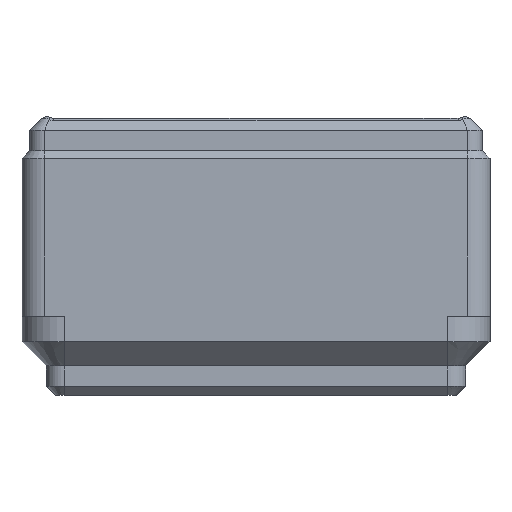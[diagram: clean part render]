
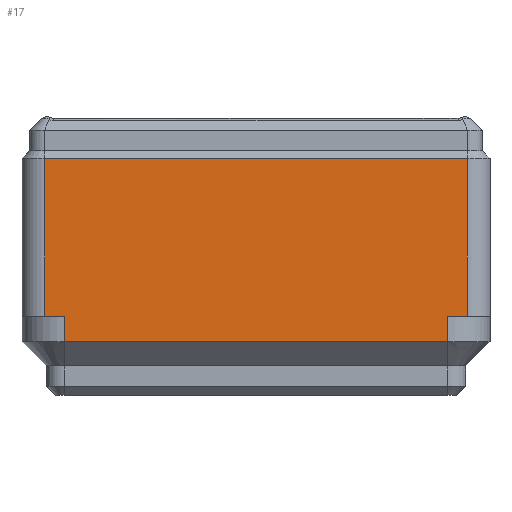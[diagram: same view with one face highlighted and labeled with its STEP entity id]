
A CAD part, left-side view. The second image highlights one B-rep face of the part: STEP entity #17.
In plain terms, the highlighted planar face has unit normal (-1, 0, 0).
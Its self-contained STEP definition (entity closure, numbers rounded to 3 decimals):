
#17 = ADVANCED_FACE('',(#18),#32,.T.);
#18 = FACE_BOUND('',#19,.T.);
#19 = EDGE_LOOP('',(#20,#55,#83,#111,#139,#167,#195,#223));
#20 = ORIENTED_EDGE('',*,*,#21,.T.);
#21 = EDGE_CURVE('',#22,#24,#26,.T.);
#22 = VERTEX_POINT('',#23);
#23 = CARTESIAN_POINT('',(0.,2.,7.));
#24 = VERTEX_POINT('',#25);
#25 = CARTESIAN_POINT('',(0.,2.,21.));
#26 = SURFACE_CURVE('',#27,(#31,#43),.PCURVE_S1.);
#27 = LINE('',#28,#29);
#28 = CARTESIAN_POINT('',(0.,2.,7.));
#29 = VECTOR('',#30,1.);
#30 = DIRECTION('',(0.,0.,1.));
#31 = PCURVE('',#32,#37);
#32 = PLANE('',#33);
#33 = AXIS2_PLACEMENT_3D('',#34,#35,#36);
#34 = CARTESIAN_POINT('',(0.,2.,7.));
#35 = DIRECTION('',(-1.,0.,0.));
#36 = DIRECTION('',(0.,1.,0.));
#37 = DEFINITIONAL_REPRESENTATION('',(#38),#42);
#38 = LINE('',#39,#40);
#39 = CARTESIAN_POINT('',(0.,0.));
#40 = VECTOR('',#41,1.);
#41 = DIRECTION('',(0.,-1.));
#42 = ( GEOMETRIC_REPRESENTATION_CONTEXT(2) 
PARAMETRIC_REPRESENTATION_CONTEXT() REPRESENTATION_CONTEXT('2D SPACE',''
  ) );
#43 = PCURVE('',#44,#49);
#44 = CYLINDRICAL_SURFACE('',#45,2.);
#45 = AXIS2_PLACEMENT_3D('',#46,#47,#48);
#46 = CARTESIAN_POINT('',(2.,2.,7.));
#47 = DIRECTION('',(-0.,-0.,-1.));
#48 = DIRECTION('',(1.,0.,0.));
#49 = DEFINITIONAL_REPRESENTATION('',(#50),#54);
#50 = LINE('',#51,#52);
#51 = CARTESIAN_POINT('',(-3.142,0.));
#52 = VECTOR('',#53,1.);
#53 = DIRECTION('',(-0.,-1.));
#54 = ( GEOMETRIC_REPRESENTATION_CONTEXT(2) 
PARAMETRIC_REPRESENTATION_CONTEXT() REPRESENTATION_CONTEXT('2D SPACE',''
  ) );
#55 = ORIENTED_EDGE('',*,*,#56,.T.);
#56 = EDGE_CURVE('',#24,#57,#59,.T.);
#57 = VERTEX_POINT('',#58);
#58 = CARTESIAN_POINT('',(0.,39.5,21.));
#59 = SURFACE_CURVE('',#60,(#64,#71),.PCURVE_S1.);
#60 = LINE('',#61,#62);
#61 = CARTESIAN_POINT('',(0.,20.75,21.));
#62 = VECTOR('',#63,1.);
#63 = DIRECTION('',(0.,1.,0.));
#64 = PCURVE('',#32,#65);
#65 = DEFINITIONAL_REPRESENTATION('',(#66),#70);
#66 = LINE('',#67,#68);
#67 = CARTESIAN_POINT('',(18.75,-14.));
#68 = VECTOR('',#69,1.);
#69 = DIRECTION('',(1.,0.));
#70 = ( GEOMETRIC_REPRESENTATION_CONTEXT(2) 
PARAMETRIC_REPRESENTATION_CONTEXT() REPRESENTATION_CONTEXT('2D SPACE',''
  ) );
#71 = PCURVE('',#72,#77);
#72 = PLANE('',#73);
#73 = AXIS2_PLACEMENT_3D('',#74,#75,#76);
#74 = CARTESIAN_POINT('',(0.7,20.75,21.7));
#75 = DIRECTION('',(-0.707,0.,0.707));
#76 = DIRECTION('',(-0.,-1.,0.));
#77 = DEFINITIONAL_REPRESENTATION('',(#78),#82);
#78 = LINE('',#79,#80);
#79 = CARTESIAN_POINT('',(0.,-0.99));
#80 = VECTOR('',#81,1.);
#81 = DIRECTION('',(-1.,0.));
#82 = ( GEOMETRIC_REPRESENTATION_CONTEXT(2) 
PARAMETRIC_REPRESENTATION_CONTEXT() REPRESENTATION_CONTEXT('2D SPACE',''
  ) );
#83 = ORIENTED_EDGE('',*,*,#84,.F.);
#84 = EDGE_CURVE('',#85,#57,#87,.T.);
#85 = VERTEX_POINT('',#86);
#86 = CARTESIAN_POINT('',(0.,39.5,7.));
#87 = SURFACE_CURVE('',#88,(#92,#99),.PCURVE_S1.);
#88 = LINE('',#89,#90);
#89 = CARTESIAN_POINT('',(0.,39.5,7.));
#90 = VECTOR('',#91,1.);
#91 = DIRECTION('',(0.,0.,1.));
#92 = PCURVE('',#32,#93);
#93 = DEFINITIONAL_REPRESENTATION('',(#94),#98);
#94 = LINE('',#95,#96);
#95 = CARTESIAN_POINT('',(37.5,0.));
#96 = VECTOR('',#97,1.);
#97 = DIRECTION('',(0.,-1.));
#98 = ( GEOMETRIC_REPRESENTATION_CONTEXT(2) 
PARAMETRIC_REPRESENTATION_CONTEXT() REPRESENTATION_CONTEXT('2D SPACE',''
  ) );
#99 = PCURVE('',#100,#105);
#100 = CYLINDRICAL_SURFACE('',#101,2.);
#101 = AXIS2_PLACEMENT_3D('',#102,#103,#104);
#102 = CARTESIAN_POINT('',(2.,39.5,7.));
#103 = DIRECTION('',(-0.,-0.,-1.));
#104 = DIRECTION('',(1.,0.,0.));
#105 = DEFINITIONAL_REPRESENTATION('',(#106),#110);
#106 = LINE('',#107,#108);
#107 = CARTESIAN_POINT('',(-3.142,0.));
#108 = VECTOR('',#109,1.);
#109 = DIRECTION('',(-0.,-1.));
#110 = ( GEOMETRIC_REPRESENTATION_CONTEXT(2) 
PARAMETRIC_REPRESENTATION_CONTEXT() REPRESENTATION_CONTEXT('2D SPACE',''
  ) );
#111 = ORIENTED_EDGE('',*,*,#112,.F.);
#112 = EDGE_CURVE('',#113,#85,#115,.T.);
#113 = VERTEX_POINT('',#114);
#114 = CARTESIAN_POINT('',(0.,37.75,7.));
#115 = SURFACE_CURVE('',#116,(#120,#127),.PCURVE_S1.);
#116 = LINE('',#117,#118);
#117 = CARTESIAN_POINT('',(0.,20.75,7.));
#118 = VECTOR('',#119,1.);
#119 = DIRECTION('',(0.,1.,0.));
#120 = PCURVE('',#32,#121);
#121 = DEFINITIONAL_REPRESENTATION('',(#122),#126);
#122 = LINE('',#123,#124);
#123 = CARTESIAN_POINT('',(18.75,0.));
#124 = VECTOR('',#125,1.);
#125 = DIRECTION('',(1.,0.));
#126 = ( GEOMETRIC_REPRESENTATION_CONTEXT(2) 
PARAMETRIC_REPRESENTATION_CONTEXT() REPRESENTATION_CONTEXT('2D SPACE',''
  ) );
#127 = PCURVE('',#128,#133);
#128 = PLANE('',#129);
#129 = AXIS2_PLACEMENT_3D('',#130,#131,#132);
#130 = CARTESIAN_POINT('',(41.75,20.75,7.));
#131 = DIRECTION('',(0.,0.,1.));
#132 = DIRECTION('',(1.,0.,-0.));
#133 = DEFINITIONAL_REPRESENTATION('',(#134),#138);
#134 = LINE('',#135,#136);
#135 = CARTESIAN_POINT('',(-41.75,0.));
#136 = VECTOR('',#137,1.);
#137 = DIRECTION('',(0.,1.));
#138 = ( GEOMETRIC_REPRESENTATION_CONTEXT(2) 
PARAMETRIC_REPRESENTATION_CONTEXT() REPRESENTATION_CONTEXT('2D SPACE',''
  ) );
#139 = ORIENTED_EDGE('',*,*,#140,.F.);
#140 = EDGE_CURVE('',#141,#113,#143,.T.);
#141 = VERTEX_POINT('',#142);
#142 = CARTESIAN_POINT('',(0.,37.75,4.75));
#143 = SURFACE_CURVE('',#144,(#148,#155),.PCURVE_S1.);
#144 = LINE('',#145,#146);
#145 = CARTESIAN_POINT('',(0.,37.75,4.75));
#146 = VECTOR('',#147,1.);
#147 = DIRECTION('',(0.,0.,1.));
#148 = PCURVE('',#32,#149);
#149 = DEFINITIONAL_REPRESENTATION('',(#150),#154);
#150 = LINE('',#151,#152);
#151 = CARTESIAN_POINT('',(35.75,2.25));
#152 = VECTOR('',#153,1.);
#153 = DIRECTION('',(0.,-1.));
#154 = ( GEOMETRIC_REPRESENTATION_CONTEXT(2) 
PARAMETRIC_REPRESENTATION_CONTEXT() REPRESENTATION_CONTEXT('2D SPACE',''
  ) );
#155 = PCURVE('',#156,#161);
#156 = CYLINDRICAL_SURFACE('',#157,3.75);
#157 = AXIS2_PLACEMENT_3D('',#158,#159,#160);
#158 = CARTESIAN_POINT('',(3.75,37.75,4.75));
#159 = DIRECTION('',(-0.,-0.,-1.));
#160 = DIRECTION('',(1.,0.,0.));
#161 = DEFINITIONAL_REPRESENTATION('',(#162),#166);
#162 = LINE('',#163,#164);
#163 = CARTESIAN_POINT('',(-3.142,0.));
#164 = VECTOR('',#165,1.);
#165 = DIRECTION('',(-0.,-1.));
#166 = ( GEOMETRIC_REPRESENTATION_CONTEXT(2) 
PARAMETRIC_REPRESENTATION_CONTEXT() REPRESENTATION_CONTEXT('2D SPACE',''
  ) );
#167 = ORIENTED_EDGE('',*,*,#168,.F.);
#168 = EDGE_CURVE('',#169,#141,#171,.T.);
#169 = VERTEX_POINT('',#170);
#170 = CARTESIAN_POINT('',(0.,3.75,4.75));
#171 = SURFACE_CURVE('',#172,(#176,#183),.PCURVE_S1.);
#172 = LINE('',#173,#174);
#173 = CARTESIAN_POINT('',(0.,20.75,4.75));
#174 = VECTOR('',#175,1.);
#175 = DIRECTION('',(0.,1.,0.));
#176 = PCURVE('',#32,#177);
#177 = DEFINITIONAL_REPRESENTATION('',(#178),#182);
#178 = LINE('',#179,#180);
#179 = CARTESIAN_POINT('',(18.75,2.25));
#180 = VECTOR('',#181,1.);
#181 = DIRECTION('',(1.,0.));
#182 = ( GEOMETRIC_REPRESENTATION_CONTEXT(2) 
PARAMETRIC_REPRESENTATION_CONTEXT() REPRESENTATION_CONTEXT('2D SPACE',''
  ) );
#183 = PCURVE('',#184,#189);
#184 = PLANE('',#185);
#185 = AXIS2_PLACEMENT_3D('',#186,#187,#188);
#186 = CARTESIAN_POINT('',(0.,20.75,4.75));
#187 = DIRECTION('',(-0.707,0.,-0.707));
#188 = DIRECTION('',(0.,-1.,-0.));
#189 = DEFINITIONAL_REPRESENTATION('',(#190),#194);
#190 = LINE('',#191,#192);
#191 = CARTESIAN_POINT('',(0.,0.));
#192 = VECTOR('',#193,1.);
#193 = DIRECTION('',(-1.,0.));
#194 = ( GEOMETRIC_REPRESENTATION_CONTEXT(2) 
PARAMETRIC_REPRESENTATION_CONTEXT() REPRESENTATION_CONTEXT('2D SPACE',''
  ) );
#195 = ORIENTED_EDGE('',*,*,#196,.T.);
#196 = EDGE_CURVE('',#169,#197,#199,.T.);
#197 = VERTEX_POINT('',#198);
#198 = CARTESIAN_POINT('',(0.,3.75,7.));
#199 = SURFACE_CURVE('',#200,(#204,#211),.PCURVE_S1.);
#200 = LINE('',#201,#202);
#201 = CARTESIAN_POINT('',(0.,3.75,4.75));
#202 = VECTOR('',#203,1.);
#203 = DIRECTION('',(0.,0.,1.));
#204 = PCURVE('',#32,#205);
#205 = DEFINITIONAL_REPRESENTATION('',(#206),#210);
#206 = LINE('',#207,#208);
#207 = CARTESIAN_POINT('',(1.75,2.25));
#208 = VECTOR('',#209,1.);
#209 = DIRECTION('',(0.,-1.));
#210 = ( GEOMETRIC_REPRESENTATION_CONTEXT(2) 
PARAMETRIC_REPRESENTATION_CONTEXT() REPRESENTATION_CONTEXT('2D SPACE',''
  ) );
#211 = PCURVE('',#212,#217);
#212 = CYLINDRICAL_SURFACE('',#213,3.75);
#213 = AXIS2_PLACEMENT_3D('',#214,#215,#216);
#214 = CARTESIAN_POINT('',(3.75,3.75,4.75));
#215 = DIRECTION('',(-0.,-0.,-1.));
#216 = DIRECTION('',(1.,0.,0.));
#217 = DEFINITIONAL_REPRESENTATION('',(#218),#222);
#218 = LINE('',#219,#220);
#219 = CARTESIAN_POINT('',(-3.142,0.));
#220 = VECTOR('',#221,1.);
#221 = DIRECTION('',(-0.,-1.));
#222 = ( GEOMETRIC_REPRESENTATION_CONTEXT(2) 
PARAMETRIC_REPRESENTATION_CONTEXT() REPRESENTATION_CONTEXT('2D SPACE',''
  ) );
#223 = ORIENTED_EDGE('',*,*,#224,.F.);
#224 = EDGE_CURVE('',#22,#197,#225,.T.);
#225 = SURFACE_CURVE('',#226,(#230,#237),.PCURVE_S1.);
#226 = LINE('',#227,#228);
#227 = CARTESIAN_POINT('',(0.,20.75,7.));
#228 = VECTOR('',#229,1.);
#229 = DIRECTION('',(0.,1.,0.));
#230 = PCURVE('',#32,#231);
#231 = DEFINITIONAL_REPRESENTATION('',(#232),#236);
#232 = LINE('',#233,#234);
#233 = CARTESIAN_POINT('',(18.75,0.));
#234 = VECTOR('',#235,1.);
#235 = DIRECTION('',(1.,0.));
#236 = ( GEOMETRIC_REPRESENTATION_CONTEXT(2) 
PARAMETRIC_REPRESENTATION_CONTEXT() REPRESENTATION_CONTEXT('2D SPACE',''
  ) );
#237 = PCURVE('',#238,#243);
#238 = PLANE('',#239);
#239 = AXIS2_PLACEMENT_3D('',#240,#241,#242);
#240 = CARTESIAN_POINT('',(41.75,20.75,7.));
#241 = DIRECTION('',(0.,0.,1.));
#242 = DIRECTION('',(1.,0.,-0.));
#243 = DEFINITIONAL_REPRESENTATION('',(#244),#248);
#244 = LINE('',#245,#246);
#245 = CARTESIAN_POINT('',(-41.75,0.));
#246 = VECTOR('',#247,1.);
#247 = DIRECTION('',(0.,1.));
#248 = ( GEOMETRIC_REPRESENTATION_CONTEXT(2) 
PARAMETRIC_REPRESENTATION_CONTEXT() REPRESENTATION_CONTEXT('2D SPACE',''
  ) );
